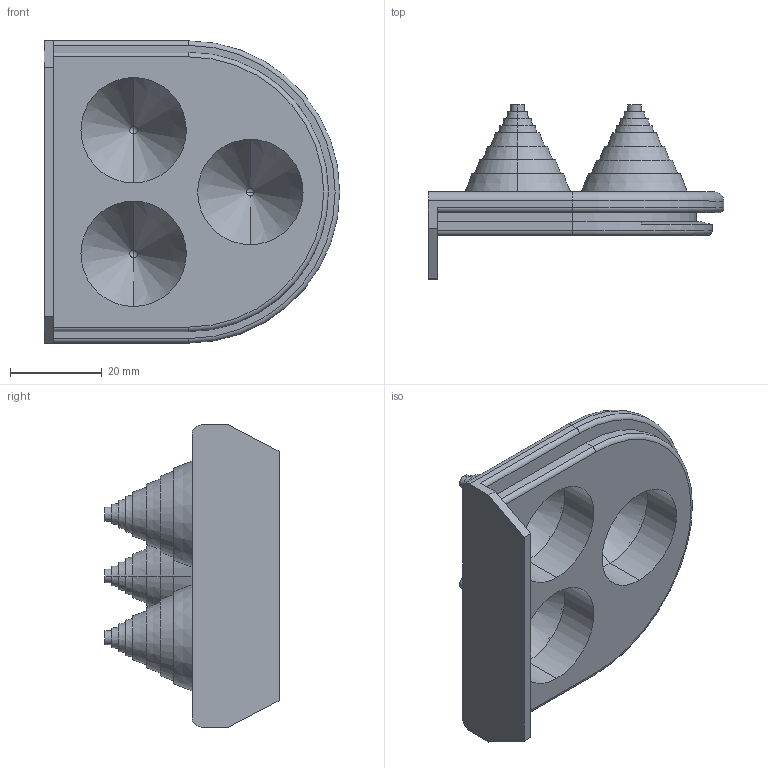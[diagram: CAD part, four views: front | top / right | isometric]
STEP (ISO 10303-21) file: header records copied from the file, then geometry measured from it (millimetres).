
FILE_DESCRIPTION (( 'STEP AP214' ), '1' );
FILE_NAME ('GK 21.3.STEP', '2020-03-04T06:09:36', ( '' ), ( '' ), 'SwSTEP 2.0', 'SolidWorks 2018', '' );
FILE_SCHEMA (( 'AUTOMOTIVE_DESIGN' ));
Length unit declared in the file: millimetre
Products named in the file (1): GK 21.3
Bounding box: 64.5 x 38 x 66 mm (x, y, z)
Volume: 23642.9 mm3; surface area: 16482.5 mm2
Topology: 1 solids, 1 shells, 120 faces, 260 edges, 169 vertices
Faces by surface type: cone 49, plane 41, cylinder 21, sphere 6, torus 3
Entity records: 3399 total; most frequent: DIRECTION 646, CARTESIAN_POINT 592, ORIENTED_EDGE 520, AXIS2_PLACEMENT_3D 266, EDGE_CURVE 260, VERTEX_POINT 169, EDGE_LOOP 147, CIRCLE 145
